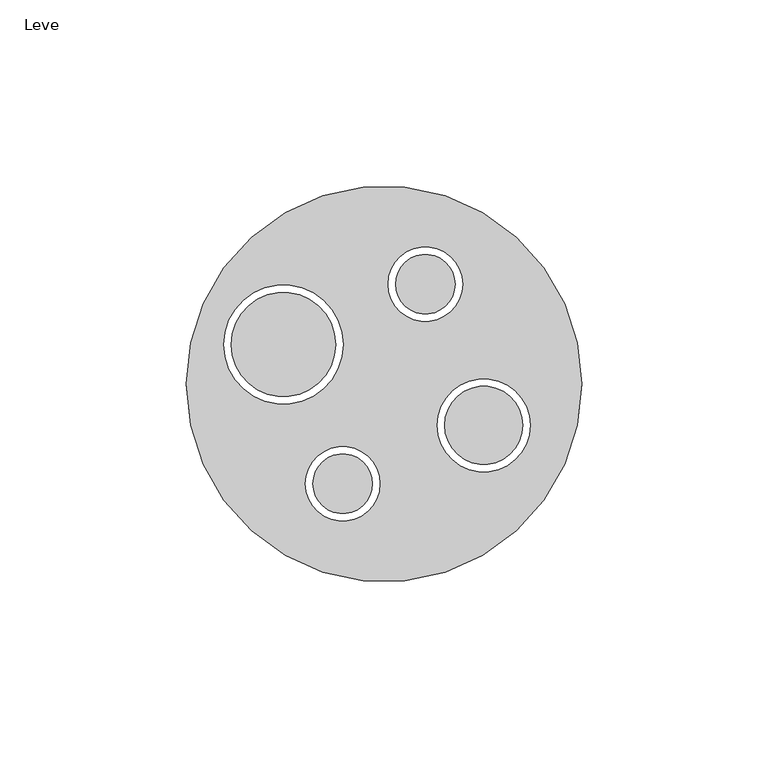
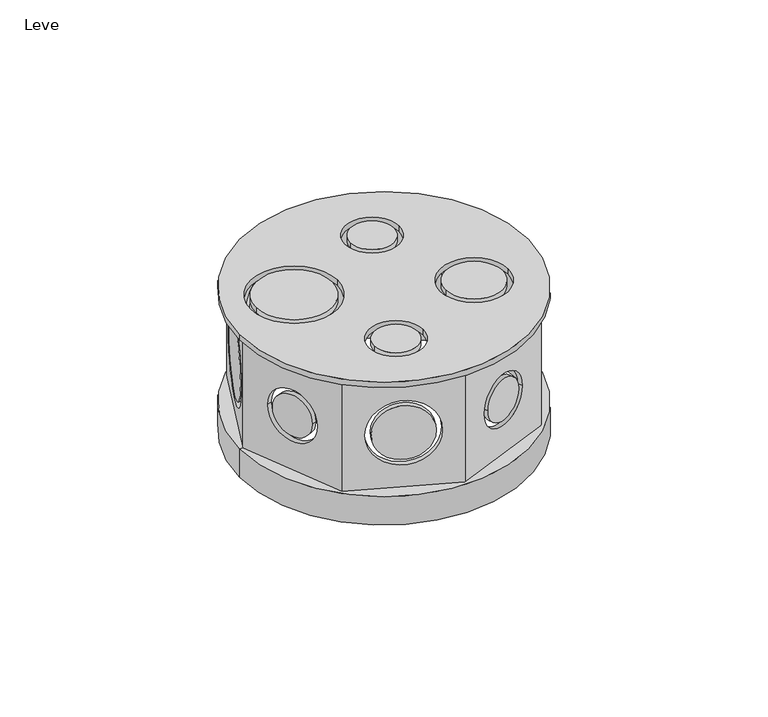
"""IFC4 building model written with IfcOpenShell, lengths in millimetres: pipe fitting geometry, AmancoWavin_ConexõesdoConduite_LinhaEletricaCorrugadoCaixaOctogonal4x4 : Leve."""

from ifc_helpers import new_model, si_unit, frame, origin, place, context, project, spatial, polyline, circle_curve, source, transform, mapped, element, save
from ifc_brep_helpers import plane_surface, cylinder_surface, revolved_surface, advanced_brep


def leve_2e341f38(model_context):
    return source(origin(), model_context, "Body", "AdvancedBrep", [
        advanced_brep(
        [(-53.1, 0.0, 11.1), (53.1, 0.0, 11.1), (51.9548256, 0.0, 11.1), (36.7376095, -36.7376095, 11.1), (0.0, -51.9548256, 11.1), (-36.7376095, -36.7376095, 11.1), (-51.9548256, 0.0, 11.1), (-36.7376095, 36.7376095, 11.1), (0.0, 51.9548256, 11.1), (36.7376095, 36.7376095, 11.1), (51.3, 0.0, 9.3), (-51.3, 0.0, 9.3), (-50.0065197, 0.0, 9.3), (-35.3599492, -35.3599492, 9.3), (0.0, -50.0065197, 9.3), (35.3599492, -35.3599492, 9.3), (50.0065197, 0.0, 9.3), (35.3599492, 35.3599492, 9.3), (0.0, 50.0065197, 9.3), (-35.3599492, 35.3599492, 9.3), (51.3, 0.0, 0.0), (-51.3, 0.0, 0.0), (53.1, 0.0, 0.0), (-53.1, 0.0, 0.0), (-50.0065197, 0.0, 53.6), (-35.3599492, 35.3599492, 53.6), (-36.5602995, 32.4620471, 32.2), (-48.8061693, 2.8979021, 32.2), (-35.3599492, -35.3599492, 53.6), (-46.5100687, -8.4411793, 32.2), (-38.8564001, -26.9187699, 32.2), (0.0, -50.0065197, 53.6), (-29.2284687, -37.8996915, 32.2), (-6.1314804, -47.4667773, 32.2), (35.3599492, -35.3599492, 53.6), (8.4411793, -46.5100687, 32.2), (26.9187699, -38.8564001, 32.2), (50.0065197, 0.0, 53.6), (36.5602995, -32.4620471, 32.2), (48.8061693, -2.8979021, 32.2), (35.3599492, 35.3599492, 53.6), (47.4667773, 6.1314804, 32.2), (37.8996915, 29.2284687, 32.2), (0.0, 50.0065197, 53.6), (26.9187699, 38.8564001, 32.2), (8.4411793, 46.5100687, 32.2), (-6.1314804, 47.4667773, 32.2), (-29.2284687, 37.8996915, 32.2), (-36.7376095, 36.7376095, 53.6), (-51.9548256, 0.0, 53.6), (-50.4691525, 3.5867322, 32.2), (-38.2232826, 33.1508773, 32.2), (-36.7376095, -36.7376095, 53.6), (-40.5193832, -27.6076001, 32.2), (-48.1730519, -9.1300094, 32.2), (0.0, -51.9548256, 53.6), (-6.8203106, -49.1297605, 32.2), (-29.9172989, -39.5626747, 32.2), (36.7376095, -36.7376095, 53.6), (27.6076001, -40.5193832, 32.2), (9.1300094, -48.1730519, 32.2), (51.9548256, 0.0, 53.6), (50.4691525, -3.5867322, 32.2), (38.2232826, -33.1508773, 32.2), (36.7376095, 36.7376095, 53.6), (39.5626747, 29.9172989, 32.2), (49.1297605, 6.8203106, 32.2), (0.0, 51.9548256, 53.6), (9.1300094, 48.1730519, 32.2), (27.6076001, 40.5193832, 32.2), (-29.9172989, 39.5626747, 32.2), (-6.8203106, 49.1297605, 32.2), (-53.1, 0.0, 55.7), (53.1, 0.0, 55.7), (21.0978211, 26.7925101, 55.7), (1.0978211, 26.7925101, 55.7), (-1.0978211, -26.7925101, 55.7), (-21.0978211, -26.7925101, 55.7), (-11.0031292, 10.5893313, 55.7), (-43.0031292, 10.5893313, 55.7), (39.2866956, -11.1118481, 55.7), (14.2866956, -11.1118481, 55.7), (1.0978211, 26.7925101, 53.6), (21.0978211, 26.7925101, 53.6), (-21.0978211, -26.7925101, 53.6), (-1.0978211, -26.7925101, 53.6), (-43.0031292, 10.5893313, 53.6), (-11.0031292, 10.5893313, 53.6), (14.2866956, -11.1118481, 53.6), (39.2866956, -11.1118481, 53.6), (-53.1, 0.0, 53.6), (53.1, 0.0, 53.6)],
        [
            (0, 1, circle_curve(frame((0.0, 0.0, 11.1), z_axis=(0.0, 0.0, 1.0), x_axis=(-1.0, 0.0, 0.0)), 53.1)),
            (1, 2),
            (2, 3),
            (3, 4),
            (4, 5),
            (5, 6),
            (6, 0),
            (1, 0, circle_curve(frame((0.0, 0.0, 11.1), z_axis=(0.0, 0.0, 1.0), x_axis=(-1.0, 0.0, 0.0)), 53.1)),
            (6, 7),
            (7, 8),
            (8, 9),
            (9, 2),
            (10, 11, circle_curve(frame((0.0, 0.0, 9.3), z_axis=(0.0, 0.0, -1.0), x_axis=(-1.0, 0.0, 0.0)), 51.3)),
            (11, 12),
            (12, 13),
            (13, 14),
            (14, 15),
            (15, 16),
            (16, 10),
            (11, 10, circle_curve(frame((0.0, 0.0, 9.3), z_axis=(0.0, 0.0, -1.0), x_axis=(-1.0, 0.0, 0.0)), 51.3)),
            (16, 17),
            (17, 18),
            (18, 19),
            (19, 12),
            (10, 20),
            (20, 21, circle_curve(frame((0.0, 0.0, 0.0), z_axis=(0.0, 0.0, -1.0), x_axis=(-1.0, 0.0, 0.0)), 51.3)),
            (21, 11),
            (21, 20, circle_curve(frame((0.0, 0.0, 0.0), z_axis=(0.0, 0.0, -1.0), x_axis=(-1.0, 0.0, 0.0)), 51.3)),
            (20, 22),
            (22, 23, circle_curve(frame((0.0, 0.0, 0.0), z_axis=(0.0, 0.0, -1.0), x_axis=(-1.0, 0.0, 0.0)), 53.1)),
            (23, 21),
            (23, 22, circle_curve(frame((0.0, 0.0, 0.0), z_axis=(0.0, 0.0, -1.0), x_axis=(-1.0, 0.0, 0.0)), 53.1)),
            (0, 23),
            (22, 1),
            (24, 12),
            (19, 25),
            (25, 24),
            (26, 27, circle_curve(frame((-42.6832344, 17.6799746, 32.2), z_axis=(-0.9238795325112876, 0.38268343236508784, 0.0), x_axis=(-0.38268343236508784, -0.9238795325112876, 0.0)), 16.0)),
            (27, 26, circle_curve(frame((-42.6832344, 17.6799746, 32.2), z_axis=(-0.9238795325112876, 0.38268343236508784, 0.0), x_axis=(-0.38268343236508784, -0.9238795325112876, 0.0)), 16.0)),
            (24, 28),
            (28, 13),
            (29, 30, circle_curve(frame((-42.6832344, -17.6799746, 32.2), z_axis=(-0.9238795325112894, -0.38268343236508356, 0.0), x_axis=(0.38268343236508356, -0.9238795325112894, 0.0)), 10.0)),
            (30, 29, circle_curve(frame((-42.6832344, -17.6799746, 32.2), z_axis=(-0.9238795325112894, -0.38268343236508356, 0.0), x_axis=(0.38268343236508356, -0.9238795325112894, 0.0)), 10.0)),
            (28, 31),
            (31, 14),
            (32, 33, circle_curve(frame((-17.6799746, -42.6832344, 32.2), z_axis=(-0.3826834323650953, -0.9238795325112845, 0.0), x_axis=(-0.9238795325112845, 0.3826834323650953, 0.0)), 12.5)),
            (33, 32, circle_curve(frame((-17.6799746, -42.6832344, 32.2), z_axis=(-0.3826834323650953, -0.9238795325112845, 0.0), x_axis=(-0.9238795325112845, 0.3826834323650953, 0.0)), 12.5)),
            (31, 34),
            (34, 15),
            (35, 36, circle_curve(frame((17.6799746, -42.6832344, 32.2), z_axis=(0.3826834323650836, -0.9238795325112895, 0.0), x_axis=(0.9238795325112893, 0.3826834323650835, 0.0)), 10.0)),
            (36, 35, circle_curve(frame((17.6799746, -42.6832344, 32.2), z_axis=(0.3826834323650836, -0.9238795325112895, 0.0), x_axis=(0.9238795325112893, 0.3826834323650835, 0.0)), 10.0)),
            (34, 37),
            (37, 16),
            (38, 39, circle_curve(frame((42.6832344, -17.6799746, 32.2), z_axis=(0.9238795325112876, -0.3826834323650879, 0.0), x_axis=(-0.3826834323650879, -0.9238795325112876, 0.0)), 16.0)),
            (39, 38, circle_curve(frame((42.6832344, -17.6799746, 32.2), z_axis=(0.9238795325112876, -0.3826834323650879, 0.0), x_axis=(-0.3826834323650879, -0.9238795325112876, 0.0)), 16.0)),
            (37, 40),
            (40, 17),
            (41, 42, circle_curve(frame((42.6832344, 17.6799746, 32.2), z_axis=(0.9238795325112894, 0.38268343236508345, 0.0), x_axis=(0.38268343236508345, -0.9238795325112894, 0.0)), 12.5)),
            (42, 41, circle_curve(frame((42.6832344, 17.6799746, 32.2), z_axis=(0.9238795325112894, 0.38268343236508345, 0.0), x_axis=(0.38268343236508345, -0.9238795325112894, 0.0)), 12.5)),
            (40, 43),
            (43, 18),
            (44, 45, circle_curve(frame((17.6799746, 42.6832344, 32.2), z_axis=(0.3826834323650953, 0.9238795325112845, 0.0), x_axis=(0.9238795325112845, -0.3826834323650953, 0.0)), 10.0)),
            (45, 44, circle_curve(frame((17.6799746, 42.6832344, 32.2), z_axis=(0.3826834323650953, 0.9238795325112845, 0.0), x_axis=(0.9238795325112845, -0.3826834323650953, 0.0)), 10.0)),
            (43, 25),
            (46, 47, circle_curve(frame((-17.6799746, 42.6832344, 32.2), z_axis=(-0.38268343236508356, 0.9238795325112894, 0.0), x_axis=(-0.9238795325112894, -0.38268343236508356, 0.0)), 12.5)),
            (47, 46, circle_curve(frame((-17.6799746, 42.6832344, 32.2), z_axis=(-0.38268343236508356, 0.9238795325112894, 0.0), x_axis=(-0.9238795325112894, -0.38268343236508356, 0.0)), 12.5)),
            (48, 7),
            (6, 49),
            (49, 48),
            (50, 51, circle_curve(frame((-44.3462176, 18.3688048, 32.2), z_axis=(0.9238795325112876, -0.38268343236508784, 0.0), x_axis=(-0.38268343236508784, -0.9238795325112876, 0.0)), 16.0)),
            (51, 50, circle_curve(frame((-44.3462176, 18.3688048, 32.2), z_axis=(0.9238795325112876, -0.38268343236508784, 0.0), x_axis=(-0.38268343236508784, -0.9238795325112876, 0.0)), 16.0)),
            (5, 52),
            (52, 49),
            (53, 54, circle_curve(frame((-44.3462176, -18.3688048, 32.2), z_axis=(0.9238795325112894, 0.38268343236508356, 0.0), x_axis=(0.38268343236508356, -0.9238795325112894, 0.0)), 10.0)),
            (54, 53, circle_curve(frame((-44.3462176, -18.3688048, 32.2), z_axis=(0.9238795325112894, 0.38268343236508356, 0.0), x_axis=(0.38268343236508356, -0.9238795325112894, 0.0)), 10.0)),
            (4, 55),
            (55, 52),
            (56, 57, circle_curve(frame((-18.3688048, -44.3462176, 32.2), z_axis=(0.3826834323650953, 0.9238795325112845, 0.0), x_axis=(-0.9238795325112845, 0.3826834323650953, 0.0)), 12.5)),
            (57, 56, circle_curve(frame((-18.3688048, -44.3462176, 32.2), z_axis=(0.3826834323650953, 0.9238795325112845, 0.0), x_axis=(-0.9238795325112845, 0.3826834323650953, 0.0)), 12.5)),
            (3, 58),
            (58, 55),
            (59, 60, circle_curve(frame((18.3688048, -44.3462176, 32.2), z_axis=(-0.3826834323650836, 0.9238795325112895, 0.0), x_axis=(0.9238795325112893, 0.3826834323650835, 0.0)), 10.0)),
            (60, 59, circle_curve(frame((18.3688048, -44.3462176, 32.2), z_axis=(-0.3826834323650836, 0.9238795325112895, 0.0), x_axis=(0.9238795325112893, 0.3826834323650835, 0.0)), 10.0)),
            (2, 61),
            (61, 58),
            (62, 63, circle_curve(frame((44.3462176, -18.3688048, 32.2), z_axis=(-0.9238795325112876, 0.3826834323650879, 0.0), x_axis=(-0.3826834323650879, -0.9238795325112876, 0.0)), 16.0)),
            (63, 62, circle_curve(frame((44.3462176, -18.3688048, 32.2), z_axis=(-0.9238795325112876, 0.3826834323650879, 0.0), x_axis=(-0.3826834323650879, -0.9238795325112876, 0.0)), 16.0)),
            (9, 64),
            (64, 61),
            (65, 66, circle_curve(frame((44.3462176, 18.3688048, 32.2), z_axis=(-0.9238795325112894, -0.38268343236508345, 0.0), x_axis=(0.38268343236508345, -0.9238795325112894, 0.0)), 12.5)),
            (66, 65, circle_curve(frame((44.3462176, 18.3688048, 32.2), z_axis=(-0.9238795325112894, -0.38268343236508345, 0.0), x_axis=(0.38268343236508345, -0.9238795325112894, 0.0)), 12.5)),
            (8, 67),
            (67, 64),
            (68, 69, circle_curve(frame((18.3688048, 44.3462176, 32.2), z_axis=(-0.3826834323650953, -0.9238795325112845, 0.0), x_axis=(0.9238795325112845, -0.3826834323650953, 0.0)), 10.0)),
            (69, 68, circle_curve(frame((18.3688048, 44.3462176, 32.2), z_axis=(-0.3826834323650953, -0.9238795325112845, 0.0), x_axis=(0.9238795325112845, -0.3826834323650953, 0.0)), 10.0)),
            (48, 67),
            (70, 71, circle_curve(frame((-18.3688048, 44.3462176, 32.2), z_axis=(0.38268343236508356, -0.9238795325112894, 0.0), x_axis=(-0.9238795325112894, -0.38268343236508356, 0.0)), 12.5)),
            (71, 70, circle_curve(frame((-18.3688048, 44.3462176, 32.2), z_axis=(0.38268343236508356, -0.9238795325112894, 0.0), x_axis=(-0.9238795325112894, -0.38268343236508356, 0.0)), 12.5)),
            (26, 51),
            (50, 27),
            (29, 54),
            (53, 30),
            (62, 39),
            (38, 63),
            (65, 42),
            (41, 66),
            (46, 71),
            (70, 47),
            (56, 33),
            (32, 57),
            (68, 45),
            (44, 69),
            (72, 73, circle_curve(frame((0.0, 0.0, 55.7), z_axis=(0.0, 0.0, 1.0), x_axis=(1.0, 0.0, 0.0)), 53.1)),
            (73, 72, circle_curve(frame((0.0, 0.0, 55.7), z_axis=(0.0, 0.0, 1.0), x_axis=(1.0, 0.0, 0.0)), 53.1)),
            (74, 75, circle_curve(frame((11.0978211, 26.7925101, 55.7), z_axis=(0.0, 0.0, -1.0), x_axis=(1.0, 0.0, 0.0)), 10.0)),
            (75, 74, circle_curve(frame((11.0978211, 26.7925101, 55.7), z_axis=(0.0, 0.0, -1.0), x_axis=(1.0, 0.0, 0.0)), 10.0)),
            (76, 77, circle_curve(frame((-11.0978211, -26.7925101, 55.7), z_axis=(0.0, 0.0, -1.0), x_axis=(1.0, 0.0, 0.0)), 10.0)),
            (77, 76, circle_curve(frame((-11.0978211, -26.7925101, 55.7), z_axis=(0.0, 0.0, -1.0), x_axis=(1.0, 0.0, 0.0)), 10.0)),
            (78, 79, circle_curve(frame((-27.0031292, 10.5893313, 55.7), z_axis=(0.0, 0.0, -1.0), x_axis=(1.0, 0.0, 0.0)), 16.0)),
            (79, 78, circle_curve(frame((-27.0031292, 10.5893313, 55.7), z_axis=(0.0, 0.0, -1.0), x_axis=(1.0, 0.0, 0.0)), 16.0)),
            (80, 81, circle_curve(frame((26.7866956, -11.1118481, 55.7), z_axis=(0.0, 0.0, -1.0), x_axis=(1.0, 0.0, 0.0)), 12.5)),
            (81, 80, circle_curve(frame((26.7866956, -11.1118481, 55.7), z_axis=(0.0, 0.0, -1.0), x_axis=(1.0, 0.0, 0.0)), 12.5)),
            (82, 83, circle_curve(frame((11.0978211, 26.7925101, 53.6), z_axis=(0.0, 0.0, 1.0), x_axis=(1.0, 0.0, 0.0)), 10.0)),
            (83, 82, circle_curve(frame((11.0978211, 26.7925101, 53.6), z_axis=(0.0, 0.0, 1.0), x_axis=(1.0, 0.0, 0.0)), 10.0)),
            (84, 85, circle_curve(frame((-11.0978211, -26.7925101, 53.6), z_axis=(0.0, 0.0, 1.0), x_axis=(1.0, 0.0, 0.0)), 10.0)),
            (85, 84, circle_curve(frame((-11.0978211, -26.7925101, 53.6), z_axis=(0.0, 0.0, 1.0), x_axis=(1.0, 0.0, 0.0)), 10.0)),
            (86, 87, circle_curve(frame((-27.0031292, 10.5893313, 53.6), z_axis=(0.0, 0.0, 1.0), x_axis=(1.0, 0.0, 0.0)), 16.0)),
            (87, 86, circle_curve(frame((-27.0031292, 10.5893313, 53.6), z_axis=(0.0, 0.0, 1.0), x_axis=(1.0, 0.0, 0.0)), 16.0)),
            (88, 89, circle_curve(frame((26.7866956, -11.1118481, 53.6), z_axis=(0.0, 0.0, 1.0), x_axis=(1.0, 0.0, 0.0)), 12.5)),
            (89, 88, circle_curve(frame((26.7866956, -11.1118481, 53.6), z_axis=(0.0, 0.0, 1.0), x_axis=(1.0, 0.0, 0.0)), 12.5)),
            (90, 91, circle_curve(frame((0.0, 0.0, 53.6), z_axis=(0.0, 0.0, -1.0), x_axis=(1.0, 0.0, 0.0)), 53.1)),
            (91, 90, circle_curve(frame((0.0, 0.0, 53.6), z_axis=(0.0, 0.0, -1.0), x_axis=(1.0, 0.0, 0.0)), 53.1)),
            (72, 90),
            (91, 73),
            (74, 83),
            (82, 75),
            (76, 85),
            (84, 77),
            (78, 87),
            (86, 79),
            (80, 89),
            (88, 81),
            (35, 60),
            (59, 36),
        ],
        [
            plane_surface(frame((0.0, 0.0, 11.1), z_axis=(0.0, 0.0, 1.0), x_axis=(-1.0, 0.0, 0.0))),
            plane_surface(frame((0.0, 0.0, 9.3), z_axis=(0.0, 0.0, -1.0), x_axis=(-1.0, 0.0, 0.0))),
            revolved_surface(polyline([(-51.3, 0.0, 9.300000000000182), (-51.3, 0.0, 0.0)]), (0.0, 0.0, -2214.3150031), (0.0, 0.0, 1.0)),
            plane_surface(frame((0.0, 0.0, 0.0), z_axis=(0.0, 0.0, -1.0), x_axis=(-1.0, 0.0, 0.0))),
            cylinder_surface(frame((0.0, 0.0, -2214.3150031), z_axis=(0.0, 0.0, 1.0), x_axis=(-1.0, 0.0, 0.0)), 53.1),
            plane_surface(frame((-35.3599492, 35.3599492, 53.6), z_axis=(0.9238795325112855, -0.38268343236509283, 0.0), x_axis=(0.0, 0.0, -1.0))),
            plane_surface(frame((-50.0065197, 0.0, 53.6), z_axis=(0.9238795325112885, 0.3826834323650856, 0.0), x_axis=(0.0, 0.0, -1.0))),
            plane_surface(frame((-35.3599492, -35.3599492, 53.6), z_axis=(0.38268343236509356, 0.9238795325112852, 0.0), x_axis=(0.0, 0.0, -1.0))),
            plane_surface(frame((0.0, -50.0065197, 53.6), z_axis=(-0.38268343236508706, 0.923879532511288, 0.0), x_axis=(0.0, 0.0, -1.0))),
            plane_surface(frame((35.3599492, -35.3599492, 53.6), z_axis=(-0.9238795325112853, 0.3826834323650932, 0.0), x_axis=(0.0, 0.0, -1.0))),
            plane_surface(frame((50.0065197, 0.0, 53.6), z_axis=(-0.9238795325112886, -0.38268343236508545, 0.0), x_axis=(0.0, 0.0, -1.0))),
            plane_surface(frame((35.3599492, 35.3599492, 53.6), z_axis=(-0.3826834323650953, -0.9238795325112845, 0.0), x_axis=(0.0, 0.0, -1.0))),
            plane_surface(frame((0.0, 50.0065197, 53.6), z_axis=(0.3826834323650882, -0.9238795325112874, 0.0), x_axis=(0.0, 0.0, -1.0))),
            plane_surface(frame((-36.7376095, 36.7376095, 53.6), z_axis=(-0.9238795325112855, 0.3826834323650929, 0.0), x_axis=(0.0, 0.0, -1.0))),
            plane_surface(frame((-51.9548256, 0.0, 53.6), z_axis=(-0.9238795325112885, -0.3826834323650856, 0.0), x_axis=(0.0, 0.0, -1.0))),
            plane_surface(frame((-36.7376095, -36.7376095, 53.6), z_axis=(-0.3826834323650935, -0.9238795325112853, 0.0), x_axis=(0.0, 0.0, -1.0))),
            plane_surface(frame((0.0, -51.9548256, 53.6), z_axis=(0.3826834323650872, -0.9238795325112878, 0.0), x_axis=(0.0, 0.0, -1.0))),
            plane_surface(frame((36.7376095, -36.7376095, 53.6), z_axis=(0.9238795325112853, -0.3826834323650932, 0.0), x_axis=(0.0, 0.0, -1.0))),
            plane_surface(frame((51.9548256, 0.0, 53.6), z_axis=(0.9238795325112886, 0.3826834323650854, 0.0), x_axis=(0.0, 0.0, -1.0))),
            plane_surface(frame((36.7376095, 36.7376095, 53.6), z_axis=(0.38268343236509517, 0.9238795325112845, 0.0), x_axis=(0.0, 0.0, -1.0))),
            plane_surface(frame((0.0, 51.9548256, 53.6), z_axis=(-0.3826834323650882, 0.9238795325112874, 0.0), x_axis=(0.0, 0.0, -1.0))),
            revolved_surface(polyline([(-48.806169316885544, 2.8979020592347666, 32.2), (-50.46915252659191, 3.5867322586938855, 32.2)]), (113.1333485, -46.8613673, 32.2), (0.9238795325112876, -0.38268343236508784, 0.0)),
            revolved_surface(polyline([(-38.856400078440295, -26.918769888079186, 32.2), (-40.5193832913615, -27.60760008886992, 32.2)]), (-88.9612962, -36.8489754, 32.2), (0.9238795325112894, 0.38268343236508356, 0.0)),
            revolved_surface(polyline([(38.22328269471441, -33.15087728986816, 32.2), (36.560299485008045, -32.462047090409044, 32.2)]), (113.1333485, -46.8613673, 32.2), (0.9238795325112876, -0.3826834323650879, 0.0)),
            revolved_surface(polyline([(49.12976051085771, 6.820310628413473, 32.2), (47.4667772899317, 6.131480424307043, 32.2)]), (-88.9612962, -36.8489754, 32.2), (0.9238795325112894, 0.38268343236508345, 0.0)),
            revolved_surface(polyline([(-29.22846871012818, 37.89969149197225, 32.2), (-29.917298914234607, 39.56267471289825, 32.2)]), (-28.4016141, 68.567562, 32.2), (0.38268343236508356, -0.9238795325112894, 0.0)),
            revolved_surface(polyline([(-29.917298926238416, -39.562674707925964, 32.2), (-29.228468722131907, -37.899691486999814, 32.2)]), (36.0484894, 87.028752, 32.2), (-0.3826834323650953, -0.9238795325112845, 0.0)),
            revolved_surface(polyline([(27.60760010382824, 40.51938328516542, 32.2), (26.918769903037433, 38.85640007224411, 32.2)]), (36.0484894, 87.028752, 32.2), (0.3826834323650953, 0.9238795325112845, 0.0)),
            plane_surface(frame((53.1, 0.0, 55.7), z_axis=(0.0, 0.0, 1.0), x_axis=(0.0, 1.0, 0.0))),
            plane_surface(frame((53.1, 0.0, 53.6), z_axis=(0.0, 0.0, -1.0), x_axis=(0.0, -1.0, 0.0))),
            cylinder_surface(frame((0.0, 0.0, 53.6), z_axis=(0.0, 0.0, 1.0), x_axis=(1.0, 0.0, 0.0)), 53.1),
            revolved_surface(polyline([(21.0978211, 26.7925101, 55.7), (21.0978211, 26.7925101, 53.6)]), (11.0978211, 26.7925101, 53.6), (0.0, 0.0, 1.0)),
            revolved_surface(polyline([(-1.0978211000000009, -26.7925101, 55.7), (-1.0978211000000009, -26.7925101, 53.6)]), (-11.0978211, -26.7925101, 0.0), (0.0, 0.0, 1.0)),
            revolved_surface(polyline([(-11.0031292, 10.5893313, 55.7), (-11.0031292, 10.5893313, 53.6)]), (-27.0031292, 10.5893313, 0.0), (0.0, 0.0, 1.0)),
            revolved_surface(polyline([(39.2866956, -11.1118481, 55.7), (39.2866956, -11.1118481, 53.6)]), (26.7866956, -11.1118481, 0.0), (0.0, 0.0, 1.0)),
            revolved_surface(polyline([(26.91876991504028, -38.85640006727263, 32.2), (27.60760011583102, -40.519383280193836, 32.2)]), (-28.4016141, 68.567562, 32.2), (-0.3826834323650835, 0.9238795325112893, 0.0)),
        ],
        [
            (0, [[1, 2, 3, 4, 5, 6, 7]]),
            (0, [[8, -7, 9, 10, 11, 12, -2]]),
            (1, [[13, 14, 15, 16, 17, 18, 19]]),
            (1, [[20, -19, 21, 22, 23, 24, -14]]),
            (2, [[-13, 25, 26, 27]]),
            (2, [[-20, -27, 28, -25]]),
            (3, [[-26, 29, 30, 31]]),
            (3, [[-28, -31, 32, -29]]),
            (4, [[-1, 33, -30, 34]]),
            (4, [[-8, -34, -32, -33]]),
            (5, [[35, -24, 36, 37], [38, 39]]),
            (6, [[-35, 40, 41, -15], [42, 43]]),
            (7, [[-41, 44, 45, -16], [46, 47]]),
            (8, [[-45, 48, 49, -17], [50, 51]]),
            (9, [[-49, 52, 53, -18], [54, 55]]),
            (10, [[-53, 56, 57, -21], [58, 59]]),
            (11, [[-57, 60, 61, -22], [62, 63]]),
            (12, [[-36, -23, -61, 64], [65, 66]]),
            (13, [[67, -9, 68, 69], [70, 71]]),
            (14, [[-68, -6, 72, 73], [74, 75]]),
            (15, [[-72, -5, 76, 77], [78, 79]]),
            (16, [[-76, -4, 80, 81], [82, 83]]),
            (17, [[-80, -3, 84, 85], [86, 87]]),
            (18, [[-84, -12, 88, 89], [90, 91]]),
            (19, [[-88, -11, 92, 93], [94, 95]]),
            (20, [[-67, 96, -92, -10], [97, 98]]),
            (21, [[99, -70, 100, -38]]),
            (21, [[-99, -39, -100, -71]]),
            (22, [[101, -74, 102, -42]]),
            (22, [[-101, -43, -102, -75]]),
            (23, [[103, -54, 104, -86]]),
            (23, [[-103, -87, -104, -55]]),
            (24, [[105, -58, 106, -90]]),
            (24, [[-105, -91, -106, -59]]),
            (25, [[107, -97, 108, -65]]),
            (25, [[-107, -66, -108, -98]]),
            (26, [[109, -46, 110, -78]]),
            (26, [[-109, -79, -110, -47]]),
            (27, [[111, -62, 112, -94]]),
            (27, [[-111, -95, -112, -63]]),
            (28, [[113, 114], [115, 116], [117, 118], [119, 120], [121, 122]]),
            (29, [[-37, -64, -60, -56, -52, -48, -44, -40], [123, 124], [125, 126], [127, 128], [129, 130]]),
            (29, [[131, 132], [-69, -73, -77, -81, -85, -89, -93, -96]]),
            (30, [[-113, 133, -132, 134]]),
            (30, [[-114, -134, -131, -133]]),
            (31, [[135, -123, 136, -115]]),
            (31, [[-135, -116, -136, -124]]),
            (32, [[137, -125, 138, -117]]),
            (32, [[-137, -118, -138, -126]]),
            (33, [[139, -127, 140, -119]]),
            (33, [[-139, -120, -140, -128]]),
            (34, [[141, -129, 142, -121]]),
            (34, [[-141, -122, -142, -130]]),
            (35, [[143, -82, 144, -50]]),
            (35, [[-143, -51, -144, -83]]),
        ],
    ),
        advanced_brep(
        [(-48.0408025, 4.7456611, 32.2), (-37.3256663, 30.614288, 32.2), (-38.9886495, 31.3031182, 32.2), (-49.7037856, 5.4344913, 32.2)],
        [
            (0, 1, circle_curve(frame((-42.6832344, 17.6799746, 32.2), z_axis=(0.9238795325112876, -0.38268343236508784, 0.0), x_axis=(-0.38268343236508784, -0.9238795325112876, 0.0)), 14.0)),
            (1, 0, circle_curve(frame((-42.6832344, 17.6799746, 32.2), z_axis=(0.9238795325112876, -0.38268343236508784, 0.0), x_axis=(-0.38268343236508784, -0.9238795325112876, 0.0)), 14.0)),
            (2, 3, circle_curve(frame((-44.3462176, 18.3688048, 32.2), z_axis=(-0.9238795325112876, 0.38268343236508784, 0.0), x_axis=(-0.38268343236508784, -0.9238795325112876, 0.0)), 14.0)),
            (3, 2, circle_curve(frame((-44.3462176, 18.3688048, 32.2), z_axis=(-0.9238795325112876, 0.38268343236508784, 0.0), x_axis=(-0.38268343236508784, -0.9238795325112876, 0.0)), 14.0)),
            (2, 1),
            (0, 3),
        ],
        [
            plane_surface(frame((-35.3599492, 35.3599492, 53.6), z_axis=(0.9238795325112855, -0.38268343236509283, 0.0), x_axis=(0.0, 0.0, -1.0))),
            plane_surface(frame((-36.7376095, 36.7376095, 53.6), z_axis=(-0.9238795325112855, 0.3826834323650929, 0.0), x_axis=(0.0, 0.0, -1.0))),
            cylinder_surface(frame((113.1333485, -46.8613673, 32.2), z_axis=(0.9238795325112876, -0.38268343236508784, 0.0), x_axis=(-0.38268343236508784, -0.9238795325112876, 0.0)), 14.0),
        ],
        [
            (0, [[1, 2]]),
            (1, [[3, 4]]),
            (2, [[5, -1, 6, -3]]),
            (2, [[-5, -4, -6, -2]]),
        ],
    ),
        advanced_brep(
        [(-39.6217669, -25.0710108, 32.2), (-45.7447019, -10.2889383, 32.2), (-47.407685, -10.9777685, 32.2), (-41.2847501, -25.759841, 32.2)],
        [
            (0, 1, circle_curve(frame((-42.6832344, -17.6799746, 32.2), z_axis=(0.9238795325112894, 0.38268343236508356, 0.0), x_axis=(0.38268343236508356, -0.9238795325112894, 0.0)), 8.0)),
            (1, 0, circle_curve(frame((-42.6832344, -17.6799746, 32.2), z_axis=(0.9238795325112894, 0.38268343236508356, 0.0), x_axis=(0.38268343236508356, -0.9238795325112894, 0.0)), 8.0)),
            (2, 3, circle_curve(frame((-44.3462176, -18.3688048, 32.2), z_axis=(-0.9238795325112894, -0.38268343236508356, 0.0), x_axis=(0.38268343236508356, -0.9238795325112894, 0.0)), 8.0)),
            (3, 2, circle_curve(frame((-44.3462176, -18.3688048, 32.2), z_axis=(-0.9238795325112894, -0.38268343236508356, 0.0), x_axis=(0.38268343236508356, -0.9238795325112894, 0.0)), 8.0)),
            (2, 1),
            (0, 3),
        ],
        [
            plane_surface(frame((-50.0065197, 0.0, 53.6), z_axis=(0.9238795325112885, 0.3826834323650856, 0.0), x_axis=(0.0, 0.0, -1.0))),
            plane_surface(frame((-51.9548256, 0.0, 53.6), z_axis=(-0.9238795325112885, -0.3826834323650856, 0.0), x_axis=(0.0, 0.0, -1.0))),
            cylinder_surface(frame((-88.9612962, -36.8489754, 32.2), z_axis=(0.9238795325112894, 0.38268343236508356, 0.0), x_axis=(0.38268343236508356, -0.9238795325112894, 0.0)), 8.0),
        ],
        [
            (0, [[1, 2]]),
            (1, [[3, 4]]),
            (2, [[5, -1, 6, -3]]),
            (2, [[-5, -4, -6, -2]]),
        ],
    ),
        advanced_brep(
        [(-7.9792395, -46.7014104, 32.2), (-27.3807097, -38.6650584, 32.2), (-28.0695398, -40.3280415, 32.2), (-8.6680697, -48.3643936, 32.2)],
        [
            (0, 1, circle_curve(frame((-17.6799746, -42.6832344, 32.2), z_axis=(0.3826834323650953, 0.9238795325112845, 0.0), x_axis=(-0.9238795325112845, 0.3826834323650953, 0.0)), 10.5)),
            (1, 0, circle_curve(frame((-17.6799746, -42.6832344, 32.2), z_axis=(0.3826834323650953, 0.9238795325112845, 0.0), x_axis=(-0.9238795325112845, 0.3826834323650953, 0.0)), 10.5)),
            (2, 3, circle_curve(frame((-18.3688048, -44.3462176, 32.2), z_axis=(-0.3826834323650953, -0.9238795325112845, 0.0), x_axis=(-0.9238795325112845, 0.3826834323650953, 0.0)), 10.5)),
            (3, 2, circle_curve(frame((-18.3688048, -44.3462176, 32.2), z_axis=(-0.3826834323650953, -0.9238795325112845, 0.0), x_axis=(-0.9238795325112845, 0.3826834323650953, 0.0)), 10.5)),
            (0, 3),
            (2, 1),
        ],
        [
            plane_surface(frame((-35.3599492, -35.3599492, 53.6), z_axis=(0.38268343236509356, 0.9238795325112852, 0.0), x_axis=(0.0, 0.0, -1.0))),
            plane_surface(frame((-36.7376095, -36.7376095, 53.6), z_axis=(-0.3826834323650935, -0.9238795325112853, 0.0), x_axis=(0.0, 0.0, -1.0))),
            cylinder_surface(frame((36.0484894, 87.028752, 32.2), z_axis=(-0.3826834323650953, -0.9238795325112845, 0.0), x_axis=(-0.9238795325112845, 0.3826834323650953, 0.0)), 10.5),
        ],
        [
            (0, [[1, 2]]),
            (1, [[3, 4]]),
            (2, [[5, -3, 6, -1]]),
            (2, [[-5, -2, -6, -4]]),
        ],
    ),
        advanced_brep(
        [(25.0710108, -39.6217669, 32.2), (10.2889383, -45.7447019, 32.2), (10.9777685, -47.407685, 32.2), (25.759841, -41.2847501, 32.2)],
        [
            (0, 1, circle_curve(frame((17.6799746, -42.6832344, 32.2), z_axis=(-0.3826834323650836, 0.9238795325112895, 0.0), x_axis=(0.9238795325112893, 0.3826834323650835, 0.0)), 8.0)),
            (1, 0, circle_curve(frame((17.6799746, -42.6832344, 32.2), z_axis=(-0.3826834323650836, 0.9238795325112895, 0.0), x_axis=(0.9238795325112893, 0.3826834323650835, 0.0)), 8.0)),
            (2, 3, circle_curve(frame((18.3688048, -44.3462176, 32.2), z_axis=(0.3826834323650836, -0.9238795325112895, 0.0), x_axis=(0.9238795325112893, 0.3826834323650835, 0.0)), 8.0)),
            (3, 2, circle_curve(frame((18.3688048, -44.3462176, 32.2), z_axis=(0.3826834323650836, -0.9238795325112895, 0.0), x_axis=(0.9238795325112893, 0.3826834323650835, 0.0)), 8.0)),
            (2, 1),
            (0, 3),
        ],
        [
            plane_surface(frame((0.0, -50.0065197, 53.6), z_axis=(-0.38268343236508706, 0.923879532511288, 0.0), x_axis=(0.0, 0.0, -1.0))),
            plane_surface(frame((0.0, -51.9548256, 53.6), z_axis=(0.3826834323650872, -0.9238795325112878, 0.0), x_axis=(0.0, 0.0, -1.0))),
            cylinder_surface(frame((-28.4016141, 68.567562, 32.2), z_axis=(-0.3826834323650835, 0.9238795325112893, 0.0), x_axis=(0.9238795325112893, 0.3826834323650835, 0.0)), 8.0),
        ],
        [
            (0, [[1, 2]]),
            (1, [[3, 4]]),
            (2, [[5, -1, 6, -3]]),
            (2, [[-5, -4, -6, -2]]),
        ],
    ),
        advanced_brep(
        [(48.0408025, -4.7456611, 32.2), (37.3256663, -30.614288, 32.2), (38.9886495, -31.3031182, 32.2), (49.7037856, -5.4344913, 32.2)],
        [
            (0, 1, circle_curve(frame((42.6832344, -17.6799746, 32.2), z_axis=(-0.9238795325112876, 0.3826834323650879, 0.0), x_axis=(-0.3826834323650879, -0.9238795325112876, 0.0)), 14.0)),
            (1, 0, circle_curve(frame((42.6832344, -17.6799746, 32.2), z_axis=(-0.9238795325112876, 0.3826834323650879, 0.0), x_axis=(-0.3826834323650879, -0.9238795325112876, 0.0)), 14.0)),
            (2, 3, circle_curve(frame((44.3462176, -18.3688048, 32.2), z_axis=(0.9238795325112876, -0.3826834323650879, 0.0), x_axis=(-0.3826834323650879, -0.9238795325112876, 0.0)), 14.0)),
            (3, 2, circle_curve(frame((44.3462176, -18.3688048, 32.2), z_axis=(0.9238795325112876, -0.3826834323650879, 0.0), x_axis=(-0.3826834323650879, -0.9238795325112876, 0.0)), 14.0)),
            (0, 3),
            (2, 1),
        ],
        [
            plane_surface(frame((35.3599492, -35.3599492, 53.6), z_axis=(-0.9238795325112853, 0.3826834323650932, 0.0), x_axis=(0.0, 0.0, -1.0))),
            plane_surface(frame((36.7376095, -36.7376095, 53.6), z_axis=(0.9238795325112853, -0.3826834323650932, 0.0), x_axis=(0.0, 0.0, -1.0))),
            cylinder_surface(frame((113.1333485, -46.8613673, 32.2), z_axis=(0.9238795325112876, -0.3826834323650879, 0.0), x_axis=(-0.3826834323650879, -0.9238795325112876, 0.0)), 14.0),
        ],
        [
            (0, [[1, 2]]),
            (1, [[3, 4]]),
            (2, [[5, -3, 6, -1]]),
            (2, [[-5, -2, -6, -4]]),
        ],
    ),
        advanced_brep(
        [(38.6650584, 27.3807097, 32.2), (46.7014104, 7.9792395, 32.2), (48.3643936, 8.6680697, 32.2), (40.3280415, 28.0695398, 32.2)],
        [
            (0, 1, circle_curve(frame((42.6832344, 17.6799746, 32.2), z_axis=(-0.9238795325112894, -0.38268343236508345, 0.0), x_axis=(0.38268343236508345, -0.9238795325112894, 0.0)), 10.5)),
            (1, 0, circle_curve(frame((42.6832344, 17.6799746, 32.2), z_axis=(-0.9238795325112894, -0.38268343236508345, 0.0), x_axis=(0.38268343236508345, -0.9238795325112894, 0.0)), 10.5)),
            (2, 3, circle_curve(frame((44.3462176, 18.3688048, 32.2), z_axis=(0.9238795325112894, 0.38268343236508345, 0.0), x_axis=(0.38268343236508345, -0.9238795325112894, 0.0)), 10.5)),
            (3, 2, circle_curve(frame((44.3462176, 18.3688048, 32.2), z_axis=(0.9238795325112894, 0.38268343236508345, 0.0), x_axis=(0.38268343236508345, -0.9238795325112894, 0.0)), 10.5)),
            (0, 3),
            (2, 1),
        ],
        [
            plane_surface(frame((50.0065197, 0.0, 53.6), z_axis=(-0.9238795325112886, -0.38268343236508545, 0.0), x_axis=(0.0, 0.0, -1.0))),
            plane_surface(frame((51.9548256, 0.0, 53.6), z_axis=(0.9238795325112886, 0.3826834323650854, 0.0), x_axis=(0.0, 0.0, -1.0))),
            cylinder_surface(frame((-88.9612962, -36.8489754, 32.2), z_axis=(0.9238795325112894, 0.38268343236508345, 0.0), x_axis=(0.38268343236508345, -0.9238795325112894, 0.0)), 10.5),
        ],
        [
            (0, [[1, 2]]),
            (1, [[3, 4]]),
            (2, [[5, -3, 6, -1]]),
            (2, [[-5, -2, -6, -4]]),
        ],
    ),
        advanced_brep(
        [(10.2889383, 45.7447019, 32.2), (25.0710108, 39.6217669, 32.2), (25.759841, 41.2847501, 32.2), (10.9777685, 47.407685, 32.2)],
        [
            (0, 1, circle_curve(frame((17.6799746, 42.6832344, 32.2), z_axis=(-0.3826834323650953, -0.9238795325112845, 0.0), x_axis=(0.9238795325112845, -0.3826834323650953, 0.0)), 8.0)),
            (1, 0, circle_curve(frame((17.6799746, 42.6832344, 32.2), z_axis=(-0.3826834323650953, -0.9238795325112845, 0.0), x_axis=(0.9238795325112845, -0.3826834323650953, 0.0)), 8.0)),
            (2, 3, circle_curve(frame((18.3688048, 44.3462176, 32.2), z_axis=(0.3826834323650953, 0.9238795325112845, 0.0), x_axis=(0.9238795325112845, -0.3826834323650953, 0.0)), 8.0)),
            (3, 2, circle_curve(frame((18.3688048, 44.3462176, 32.2), z_axis=(0.3826834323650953, 0.9238795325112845, 0.0), x_axis=(0.9238795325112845, -0.3826834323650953, 0.0)), 8.0)),
            (0, 3),
            (2, 1),
        ],
        [
            plane_surface(frame((35.3599492, 35.3599492, 53.6), z_axis=(-0.3826834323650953, -0.9238795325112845, 0.0), x_axis=(0.0, 0.0, -1.0))),
            plane_surface(frame((36.7376095, 36.7376095, 53.6), z_axis=(0.38268343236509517, 0.9238795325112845, 0.0), x_axis=(0.0, 0.0, -1.0))),
            cylinder_surface(frame((36.0484894, 87.028752, 32.2), z_axis=(0.3826834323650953, 0.9238795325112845, 0.0), x_axis=(0.9238795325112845, -0.3826834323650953, 0.0)), 8.0),
        ],
        [
            (0, [[1, 2]]),
            (1, [[3, 4]]),
            (2, [[5, -3, 6, -1]]),
            (2, [[-5, -2, -6, -4]]),
        ],
    ),
        advanced_brep(
        [(-27.3807097, 38.6650584, 32.2), (-7.9792395, 46.7014104, 32.2), (-8.6680697, 48.3643936, 32.2), (-28.0695398, 40.3280415, 32.2)],
        [
            (0, 1, circle_curve(frame((-17.6799746, 42.6832344, 32.2), z_axis=(0.38268343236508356, -0.9238795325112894, 0.0), x_axis=(-0.9238795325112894, -0.38268343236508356, 0.0)), 10.5)),
            (1, 0, circle_curve(frame((-17.6799746, 42.6832344, 32.2), z_axis=(0.38268343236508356, -0.9238795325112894, 0.0), x_axis=(-0.9238795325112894, -0.38268343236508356, 0.0)), 10.5)),
            (2, 3, circle_curve(frame((-18.3688048, 44.3462176, 32.2), z_axis=(-0.38268343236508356, 0.9238795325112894, 0.0), x_axis=(-0.9238795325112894, -0.38268343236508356, 0.0)), 10.5)),
            (3, 2, circle_curve(frame((-18.3688048, 44.3462176, 32.2), z_axis=(-0.38268343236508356, 0.9238795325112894, 0.0), x_axis=(-0.9238795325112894, -0.38268343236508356, 0.0)), 10.5)),
            (2, 1),
            (0, 3),
        ],
        [
            plane_surface(frame((0.0, 50.0065197, 53.6), z_axis=(0.3826834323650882, -0.9238795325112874, 0.0), x_axis=(0.0, 0.0, -1.0))),
            plane_surface(frame((0.0, 51.9548256, 53.6), z_axis=(-0.3826834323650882, 0.9238795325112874, 0.0), x_axis=(0.0, 0.0, -1.0))),
            cylinder_surface(frame((-28.4016141, 68.567562, 32.2), z_axis=(0.38268343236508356, -0.9238795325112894, 0.0), x_axis=(-0.9238795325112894, -0.38268343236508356, 0.0)), 10.5),
        ],
        [
            (0, [[1, 2]]),
            (1, [[3, 4]]),
            (2, [[5, -1, 6, -3]]),
            (2, [[-5, -4, -6, -2]]),
        ],
    ),
        advanced_brep(
        [(19.0978211, 26.7925101, 55.7), (3.0978211, 26.7925101, 55.7), (3.0978211, 26.7925101, 53.6), (19.0978211, 26.7925101, 53.6)],
        [
            (0, 1, circle_curve(frame((11.0978211, 26.7925101, 55.7), z_axis=(0.0, 0.0, 1.0), x_axis=(1.0, 0.0, 0.0)), 8.0)),
            (1, 0, circle_curve(frame((11.0978211, 26.7925101, 55.7), z_axis=(0.0, 0.0, 1.0), x_axis=(1.0, 0.0, 0.0)), 8.0)),
            (2, 3, circle_curve(frame((11.0978211, 26.7925101, 53.6), z_axis=(0.0, 0.0, -1.0), x_axis=(1.0, 0.0, 0.0)), 8.0)),
            (3, 2, circle_curve(frame((11.0978211, 26.7925101, 53.6), z_axis=(0.0, 0.0, -1.0), x_axis=(1.0, 0.0, 0.0)), 8.0)),
            (0, 3),
            (2, 1),
        ],
        [
            plane_surface(frame((53.1, 0.0, 55.7), z_axis=(0.0, 0.0, 1.0), x_axis=(0.0, 1.0, 0.0))),
            plane_surface(frame((53.1, 0.0, 53.6), z_axis=(0.0, 0.0, -1.0), x_axis=(0.0, -1.0, 0.0))),
            cylinder_surface(frame((11.0978211, 26.7925101, 0.0), z_axis=(0.0, 0.0, -1.0), x_axis=(1.0, 0.0, 0.0)), 8.0),
        ],
        [
            (0, [[1, 2]]),
            (1, [[3, 4]]),
            (2, [[5, -3, 6, -1]]),
            (2, [[-5, -2, -6, -4]]),
        ],
    ),
        advanced_brep(
        [(-3.0978211, -26.7925101, 55.7), (-19.0978211, -26.7925101, 55.7), (-19.0978211, -26.7925101, 53.6), (-3.0978211, -26.7925101, 53.6)],
        [
            (0, 1, circle_curve(frame((-11.0978211, -26.7925101, 55.7), z_axis=(0.0, 0.0, 1.0), x_axis=(1.0, 0.0, 0.0)), 8.0)),
            (1, 0, circle_curve(frame((-11.0978211, -26.7925101, 55.7), z_axis=(0.0, 0.0, 1.0), x_axis=(1.0, 0.0, 0.0)), 8.0)),
            (2, 3, circle_curve(frame((-11.0978211, -26.7925101, 53.6), z_axis=(0.0, 0.0, -1.0), x_axis=(1.0, 0.0, 0.0)), 8.0)),
            (3, 2, circle_curve(frame((-11.0978211, -26.7925101, 53.6), z_axis=(0.0, 0.0, -1.0), x_axis=(1.0, 0.0, 0.0)), 8.0)),
            (0, 3),
            (2, 1),
        ],
        [
            plane_surface(frame((53.1, 0.0, 55.7), z_axis=(0.0, 0.0, 1.0), x_axis=(0.0, 1.0, 0.0))),
            plane_surface(frame((53.1, 0.0, 53.6), z_axis=(0.0, 0.0, -1.0), x_axis=(0.0, -1.0, 0.0))),
            cylinder_surface(frame((-11.0978211, -26.7925101, 0.0), z_axis=(0.0, 0.0, -1.0), x_axis=(1.0, 0.0, 0.0)), 8.0),
        ],
        [
            (0, [[1, 2]]),
            (1, [[3, 4]]),
            (2, [[5, -3, 6, -1]]),
            (2, [[-5, -2, -6, -4]]),
        ],
    ),
        advanced_brep(
        [(-13.0031292, 10.5893313, 55.7), (-41.0031292, 10.5893313, 55.7), (-41.0031292, 10.5893313, 53.6), (-13.0031292, 10.5893313, 53.6)],
        [
            (0, 1, circle_curve(frame((-27.0031292, 10.5893313, 55.7), z_axis=(0.0, 0.0, 1.0), x_axis=(1.0, 0.0, 0.0)), 14.0)),
            (1, 0, circle_curve(frame((-27.0031292, 10.5893313, 55.7), z_axis=(0.0, 0.0, 1.0), x_axis=(1.0, 0.0, 0.0)), 14.0)),
            (2, 3, circle_curve(frame((-27.0031292, 10.5893313, 53.6), z_axis=(0.0, 0.0, -1.0), x_axis=(1.0, 0.0, 0.0)), 14.0)),
            (3, 2, circle_curve(frame((-27.0031292, 10.5893313, 53.6), z_axis=(0.0, 0.0, -1.0), x_axis=(1.0, 0.0, 0.0)), 14.0)),
            (0, 3),
            (2, 1),
        ],
        [
            plane_surface(frame((53.1, 0.0, 55.7), z_axis=(0.0, 0.0, 1.0), x_axis=(0.0, 1.0, 0.0))),
            plane_surface(frame((53.1, 0.0, 53.6), z_axis=(0.0, 0.0, -1.0), x_axis=(0.0, -1.0, 0.0))),
            cylinder_surface(frame((-27.0031292, 10.5893313, 0.0), z_axis=(0.0, 0.0, -1.0), x_axis=(1.0, 0.0, 0.0)), 14.0),
        ],
        [
            (0, [[1, 2]]),
            (1, [[3, 4]]),
            (2, [[5, -3, 6, -1]]),
            (2, [[-5, -2, -6, -4]]),
        ],
    ),
        advanced_brep(
        [(37.2866956, -11.1118481, 55.7), (16.2866956, -11.1118481, 55.7), (16.2866956, -11.1118481, 53.6), (37.2866956, -11.1118481, 53.6)],
        [
            (0, 1, circle_curve(frame((26.7866956, -11.1118481, 55.7), z_axis=(0.0, 0.0, 1.0), x_axis=(1.0, 0.0, 0.0)), 10.5)),
            (1, 0, circle_curve(frame((26.7866956, -11.1118481, 55.7), z_axis=(0.0, 0.0, 1.0), x_axis=(1.0, 0.0, 0.0)), 10.5)),
            (2, 3, circle_curve(frame((26.7866956, -11.1118481, 53.6), z_axis=(0.0, 0.0, -1.0), x_axis=(1.0, 0.0, 0.0)), 10.5)),
            (3, 2, circle_curve(frame((26.7866956, -11.1118481, 53.6), z_axis=(0.0, 0.0, -1.0), x_axis=(1.0, 0.0, 0.0)), 10.5)),
            (0, 3),
            (2, 1),
        ],
        [
            plane_surface(frame((53.1, 0.0, 55.7), z_axis=(0.0, 0.0, 1.0), x_axis=(0.0, 1.0, 0.0))),
            plane_surface(frame((53.1, 0.0, 53.6), z_axis=(0.0, 0.0, -1.0), x_axis=(0.0, -1.0, 0.0))),
            cylinder_surface(frame((26.7866956, -11.1118481, 0.0), z_axis=(0.0, 0.0, -1.0), x_axis=(1.0, 0.0, 0.0)), 10.5),
        ],
        [
            (0, [[1, 2]]),
            (1, [[3, 4]]),
            (2, [[5, -3, 6, -1]]),
            (2, [[-5, -2, -6, -4]]),
        ],
    ),
    ])


if __name__ == "__main__":
    model = new_model("IFC4")
    model_context = context("Model", 3, world=origin())
    ifc_project = project(units=[si_unit("LENGTHUNIT", "METRE", prefix="MILLI")], contexts=[model_context])
    site = spatial("IfcSite", under=ifc_project)
    building = spatial("IfcBuilding", under=site)
    placement = place(None, origin())
    leve_shape = leve_2e341f38(model_context)
    element("IfcPipeFitting", 1, ObjectType="AmancoWavin_ConexõesdoConduite_LinhaEletricaCorrugadoCaixaOctogonal4x4 : Leve", at=placement, inside=building, context=model_context, shape_type="MappedRepresentation", body=[
        mapped(leve_shape, transform((0.0, 0.0, 0.0), x_axis=(1.0, 0.0, 0.0), y_axis=(0.0, 1.0, 0.0), z_axis=(0.0, 0.0, 1.0))),
    ])
    save(model, "model.ifc")
